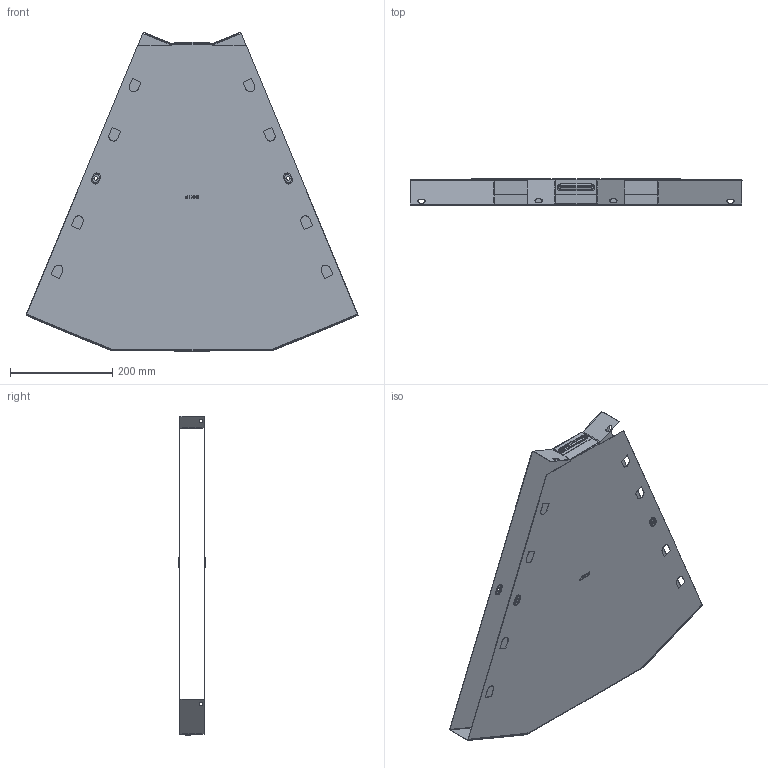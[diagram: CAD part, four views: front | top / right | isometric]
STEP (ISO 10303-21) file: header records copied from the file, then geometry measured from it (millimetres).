
FILE_DESCRIPTION (( 'STEP AP214' ), '1' );
FILE_NAME ('g4550600_捘.STEP', '2019-06-10T08:34:49', ( '砐錪賧瘔蠈錪 Windows' ), ( '' ), 'SwSTEP 2.0', 'SolidWorks 2018', '' );
FILE_SCHEMA (( 'AUTOMOTIVE_DESIGN' ));
Length unit declared in the file: millimetre
Products named in the file (1): g4550600_捘
Bounding box: 649.56 x 53.8 x 625.57 mm (x, y, z)
Volume: 458014.2 mm3; surface area: 1150273.8 mm2
Topology: 2 solids, 2 shells, 528 faces, 1436 edges, 916 vertices
Faces by surface type: plane 298, cylinder 148, torus 64, bspline 18
Entity records: 17568 total; most frequent: CARTESIAN_POINT 3900, ORIENTED_EDGE 2872, DIRECTION 2814, EDGE_CURVE 1436, VECTOR 1008, LINE 1008, VERTEX_POINT 916, AXIS2_PLACEMENT_3D 903
